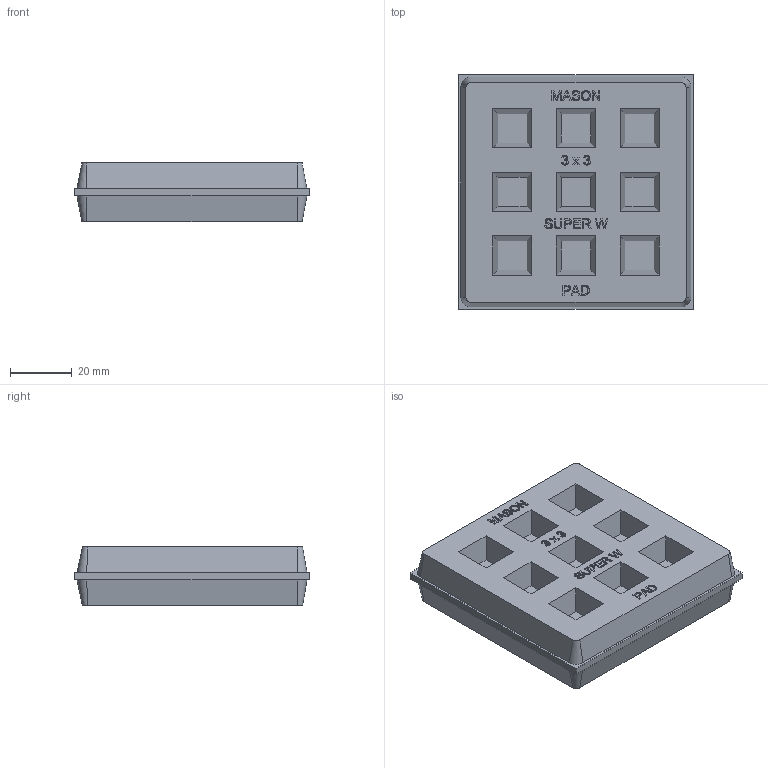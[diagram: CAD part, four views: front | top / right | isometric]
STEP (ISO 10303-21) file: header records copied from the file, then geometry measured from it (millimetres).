
FILE_DESCRIPTION(/* description */ (''),/* implementation_level */ '2;1');
FILE_NAME(/* name */ 'C:\001_Work\Designs\SUPER W PAD\SUPER W 3 x 3 x 0750 PAD.stp',/* time_stamp */ '2015-09-09T10:19:02-04:00',/* author */ ('rramoutar'),/* organization */ (''),/* preprocessor_version */ 'ST-DEVELOPER v15.6',/* originating_system */ 'Autodesk Inventor 2015',/* authorisation */ '');
FILE_SCHEMA (('AUTOMOTIVE_DESIGN { 1 0 10303 214 3 1 1 }'));
Length unit declared in the file: inch
Products named in the file (1): SUPER W 3 x 3 x 0750 PAD PER A-31193-1
Bounding box: 76.2 x 76.2 x 19.25 mm (x, y, z)
Volume: 84906.6 mm3; surface area: 21574.9 mm2
Topology: 1 solids, 1 shells, 380 faces, 1002 edges, 668 vertices
Faces by surface type: plane 262, bspline 118
Entity records: 12587 total; most frequent: CARTESIAN_POINT 3895, ORIENTED_EDGE 2004, DIRECTION 1324, EDGE_CURVE 1002, LINE 766, VECTOR 766, VERTEX_POINT 668, EDGE_LOOP 424
